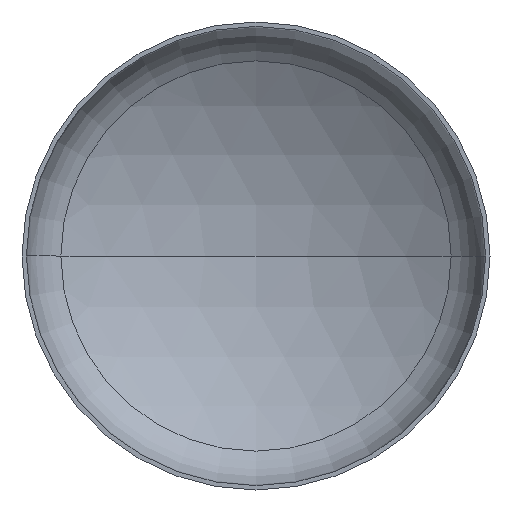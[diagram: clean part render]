
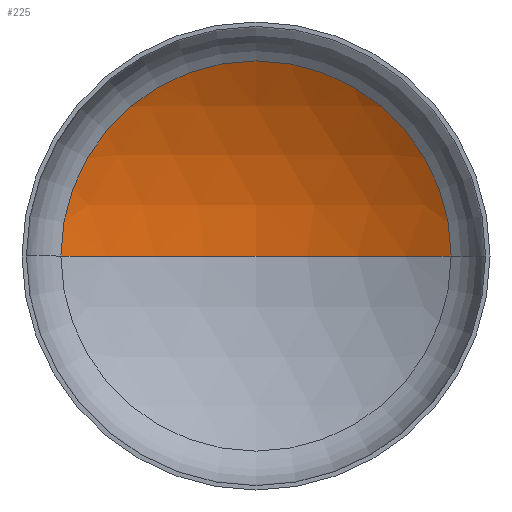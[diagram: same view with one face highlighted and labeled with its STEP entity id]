
A CAD part, front view. The second image highlights one B-rep face of the part: STEP entity #225.
In plain terms, the highlighted spherical face has radius 3200 mm.
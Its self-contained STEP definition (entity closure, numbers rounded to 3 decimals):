
#5 = CARTESIAN_POINT ( 'NONE',  ( 0., 644.906, 0. ) ) ;
#9 = AXIS2_PLACEMENT_3D ( 'NONE', #179, #29, #21 ) ;
#12 = CARTESIAN_POINT ( 'NONE',  ( 0., -2086.313, 0. ) ) ;
#21 = DIRECTION ( 'NONE',  ( -1., 0., 0. ) ) ;
#23 = DIRECTION ( 'NONE',  ( 0., 0., 1. ) ) ;
#24 = EDGE_LOOP ( 'NONE', ( #140, #145, #76 ) ) ;
#28 = AXIS2_PLACEMENT_3D ( 'NONE', #265, #23, #189 ) ;
#29 = DIRECTION ( 'NONE',  ( 0., 0., -1. ) ) ;
#33 = AXIS2_PLACEMENT_3D ( 'NONE', #12, #288, #127 ) ;
#35 = AXIS2_PLACEMENT_3D ( 'NONE', #5, #239, #183 ) ;
#39 = CIRCLE ( 'NONE', #28, 3200. ) ;
#71 = VERTEX_POINT ( 'NONE', #238 ) ;
#76 = ORIENTED_EDGE ( 'NONE', *, *, #108, .T. ) ;
#95 = VERTEX_POINT ( 'NONE', #305 ) ;
#107 = VERTEX_POINT ( 'NONE', #218 ) ;
#108 = EDGE_CURVE ( 'NONE', #71, #107, #253, .T. ) ;
#110 = EDGE_CURVE ( 'NONE', #95, #71, #181, .T. ) ;
#111 = EDGE_CURVE ( 'NONE', #95, #107, #39, .T. ) ;
#127 = DIRECTION ( 'NONE',  ( -1., 0., 0. ) ) ;
#140 = ORIENTED_EDGE ( 'NONE', *, *, #111, .F. ) ;
#145 = ORIENTED_EDGE ( 'NONE', *, *, #110, .T. ) ;
#179 = CARTESIAN_POINT ( 'NONE',  ( 0., -2086.313, 0. ) ) ;
#181 = CIRCLE ( 'NONE', #33, 3200. ) ;
#183 = DIRECTION ( 'NONE',  ( 1., 0., 0. ) ) ;
#189 = DIRECTION ( 'NONE',  ( 1., 0., 0. ) ) ;
#218 = CARTESIAN_POINT ( 'NONE',  ( -1667.466, 644.906, 0. ) ) ;
#225 = ADVANCED_FACE ( 'NONE', ( #410 ), #365, .F. ) ;
#238 = CARTESIAN_POINT ( 'NONE',  ( 1667.466, 644.906, 0. ) ) ;
#239 = DIRECTION ( 'NONE',  ( 0., -1., 0. ) ) ;
#253 = CIRCLE ( 'NONE', #35, 1667.466 ) ;
#265 = CARTESIAN_POINT ( 'NONE',  ( 0., -2086.313, 0. ) ) ;
#288 = DIRECTION ( 'NONE',  ( 0., 0., -1. ) ) ;
#305 = CARTESIAN_POINT ( 'NONE',  ( 0., 1113.687, 0. ) ) ;
#365 = SPHERICAL_SURFACE ( 'NONE', #9, 3200. ) ;
#410 = FACE_OUTER_BOUND ( 'NONE', #24, .T. ) ;
